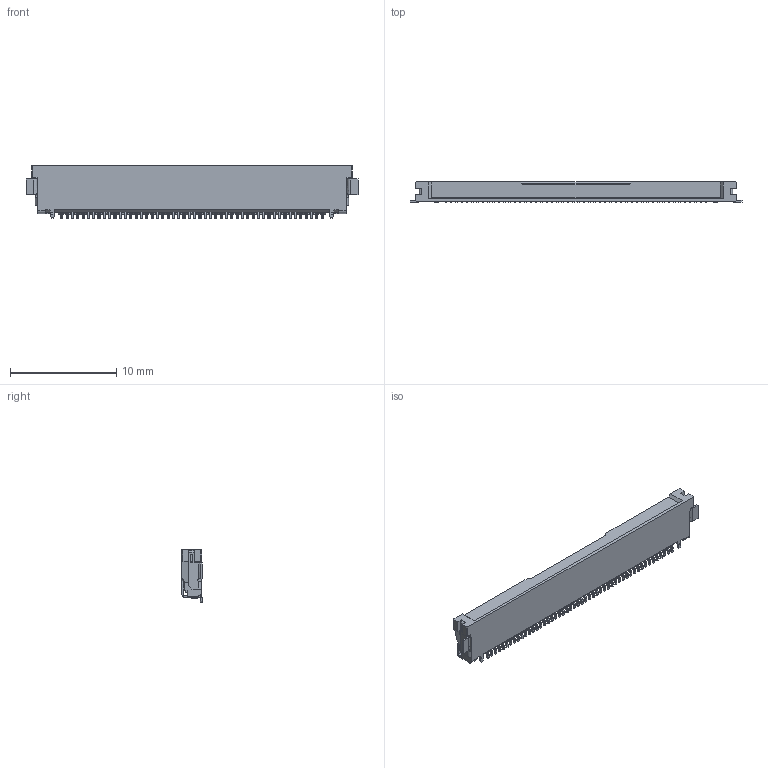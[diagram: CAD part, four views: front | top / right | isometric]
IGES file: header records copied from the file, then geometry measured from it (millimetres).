
Start section: SolidWorks IGES file using analytic representation for surfaces
Global section: file name: C:\3dwork\Watanabe\20240809_20893’†–„‚ß\20893-050ExxxC EVAFLEX 5-VS TYPE R  IGES R0 ALL.IGS; native system: SolidWorks 2023; preprocessor: SolidWorks 2023; author: E1480; date: 240809.150032; units: millimetre
Bounding box: 31.25 x 1.9 x 4.95 mm (x, y, z)
Surface area: 584 mm2 (no closed solid volume)
Topology: 0 solids, 0 shells, 2471 faces, 15322 edges, 15322 vertices
Faces by surface type: bspline 1844, revolution 627
